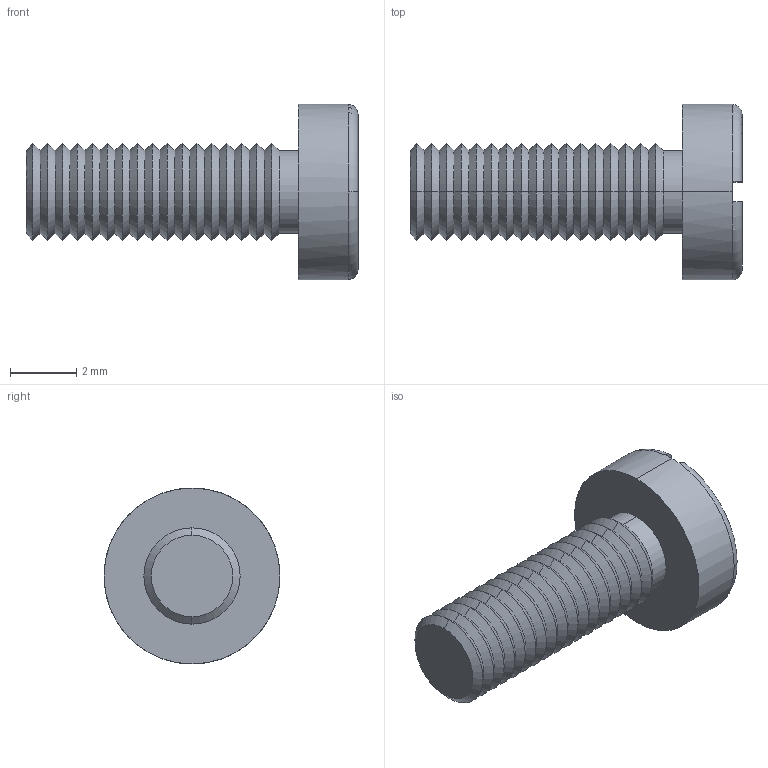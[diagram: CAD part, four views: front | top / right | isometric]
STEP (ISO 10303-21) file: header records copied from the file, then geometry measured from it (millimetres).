
FILE_DESCRIPTION (( 'STEP AP214' ), '1' );
FILE_NAME ('Cargol M 3x10 PP74.STEP', '2018-01-04T15:49:19', ( 'aaa' ), ( '' ), 'SwSTEP 2.0', 'SolidWorks 2013', '' );
FILE_SCHEMA (( 'AUTOMOTIVE_DESIGN' ));
Length unit declared in the file: millimetre
Products named in the file (1): Cargol M 3x10 PP74
Bounding box: 10 x 5.3 x 5.3 mm (x, y, z)
Volume: 85 mm3; surface area: 165.9 mm2
Topology: 1 solids, 1 shells, 82 faces, 165 edges, 86 vertices
Faces by surface type: cone 68, plane 7, cylinder 4, torus 3
Entity records: 2124 total; most frequent: DIRECTION 412, CARTESIAN_POINT 354, ORIENTED_EDGE 330, AXIS2_PLACEMENT_3D 168, EDGE_CURVE 165, VERTEX_POINT 86, CIRCLE 85, EDGE_LOOP 83
